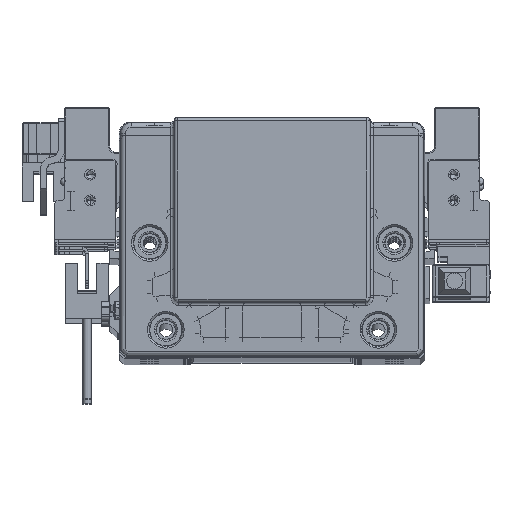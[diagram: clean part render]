
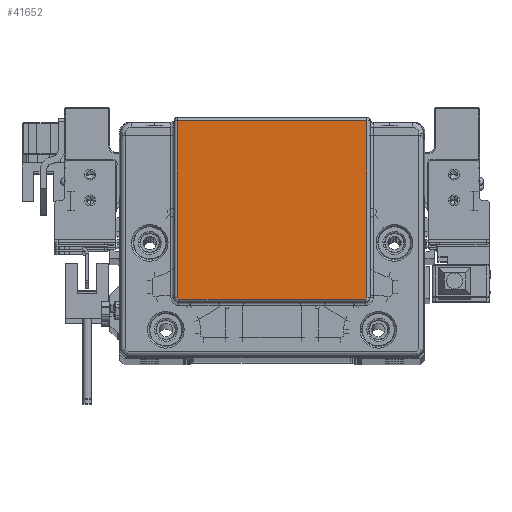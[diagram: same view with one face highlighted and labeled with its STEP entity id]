
A CAD part, top view. The second image highlights one B-rep face of the part: STEP entity #41652.
In plain terms, the highlighted planar face has unit normal (0, 0, 1) as drawn and (0, 0, -1) by its records, which use the part's own axes.
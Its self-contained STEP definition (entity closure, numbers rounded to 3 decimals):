
#1126 = ORIENTED_EDGE ( 'NONE', *, *, #15999, .F. ) ;
#1312 = CARTESIAN_POINT ( 'NONE',  ( 28.935, -19.232, -2. ) ) ;
#2169 = DIRECTION ( 'NONE',  ( 0., -1., 0. ) ) ;
#2860 = VERTEX_POINT ( 'NONE', #1312 ) ;
#3333 = CARTESIAN_POINT ( 'NONE',  ( 29.003, -19.232, -2. ) ) ;
#3408 = CARTESIAN_POINT ( 'NONE',  ( 0., 36.185, -2. ) ) ;
#3755 = CARTESIAN_POINT ( 'NONE',  ( 29.296, -19.079, -2. ) ) ;
#6335 = B_SPLINE_CURVE_WITH_KNOTS ( 'NONE', 3,
 ( #77428, #3333, #56542, #71186, #44562, #10424, #83663, #23315, #30393, #29529, #37878, #3755, #51640, #64929, #30815, #24637, #78737, #49898, #77011, #16207, #43239, #36571, #73816, #20156, #67135 ),
 .UNSPECIFIED., .F., .F.,
 ( 4, 2, 1, 1, 1, 1, 2, 2, 2, 2, 2, 1, 2, 2, 4 ),
 ( 0., 0.25, 0.375, 0.438, 0.469, 0.484, 0.492, 0.5, 0.625, 0.688, 0.719, 0.734, 0.742, 0.75, 1. ),
 .UNSPECIFIED. ) ;
#7844 = CARTESIAN_POINT ( 'NONE',  ( 29.435, 36.185, -2. ) ) ;
#8360 = CARTESIAN_POINT ( 'NONE',  ( 29.435, -18.732, -2. ) ) ;
#10383 = VERTEX_POINT ( 'NONE', #7844 ) ;
#10424 = CARTESIAN_POINT ( 'NONE',  ( 29.247, -19.124, -2. ) ) ;
#10881 = EDGE_CURVE ( 'NONE', #55246, #36105, #50247, .T. ) ;
#11459 = CARTESIAN_POINT ( 'NONE',  ( -28.988, -19.232, -2. ) ) ;
#15999 = EDGE_CURVE ( 'NONE', #55246, #20825, #78642, .T. ) ;
#16207 = CARTESIAN_POINT ( 'NONE',  ( 29.395, -18.93, -2. ) ) ;
#16587 = VECTOR ( 'NONE', #17589, 1000. ) ;
#17589 = DIRECTION ( 'NONE',  ( 1., 0., 0. ) ) ;
#17701 = CARTESIAN_POINT ( 'NONE',  ( -29.435, -18.732, -2. ) ) ;
#20156 = CARTESIAN_POINT ( 'NONE',  ( 29.435, -18.785, -2. ) ) ;
#20825 = VERTEX_POINT ( 'NONE', #29982 ) ;
#21277 = LINE ( 'NONE', #75408, #72332 ) ;
#21830 = CARTESIAN_POINT ( 'NONE',  ( 0., 0., -2. ) ) ;
#23315 = CARTESIAN_POINT ( 'NONE',  ( 29.279, -19.096, -2. ) ) ;
#23660 = DIRECTION ( 'NONE',  ( 0., 1., 0. ) ) ;
#24637 = CARTESIAN_POINT ( 'NONE',  ( 29.372, -18.977, -2. ) ) ;
#24810 = CARTESIAN_POINT ( 'NONE',  ( -29.133, -19.192, -2. ) ) ;
#25244 = CARTESIAN_POINT ( 'NONE',  ( -29.051, -19.224, -2. ) ) ;
#27637 = ORIENTED_EDGE ( 'NONE', *, *, #10881, .T. ) ;
#29244 = EDGE_CURVE ( 'NONE', #10383, #61579, #21277, .T. ) ;
#29529 = CARTESIAN_POINT ( 'NONE',  ( 29.286, -19.089, -2. ) ) ;
#29982 = CARTESIAN_POINT ( 'NONE',  ( -28.935, -19.232, -2. ) ) ;
#30393 = CARTESIAN_POINT ( 'NONE',  ( 29.283, -19.092, -2. ) ) ;
#30815 = CARTESIAN_POINT ( 'NONE',  ( 29.354, -19.006, -2. ) ) ;
#31004 = CARTESIAN_POINT ( 'NONE',  ( -29.421, -18.866, -2. ) ) ;
#31008 = ORIENTED_EDGE ( 'NONE', *, *, #29244, .T. ) ;
#31864 = CARTESIAN_POINT ( 'NONE',  ( -29.209, -19.151, -2. ) ) ;
#32293 = CARTESIAN_POINT ( 'NONE',  ( -29.169, -19.175, -2. ) ) ;
#33215 = AXIS2_PLACEMENT_3D ( 'NONE', #21830, #42199, #69258 ) ;
#34738 = CARTESIAN_POINT ( 'NONE',  ( -29.435, 36.185, -2. ) ) ;
#36105 = VERTEX_POINT ( 'NONE', #34738 ) ;
#36571 = CARTESIAN_POINT ( 'NONE',  ( 29.399, -18.919, -2. ) ) ;
#37521 = LINE ( 'NONE', #3408, #16587 ) ;
#37878 = CARTESIAN_POINT ( 'NONE',  ( 29.288, -19.086, -2. ) ) ;
#38622 = EDGE_CURVE ( 'NONE', #2860, #61579, #6335, .T. ) ;
#38940 = CARTESIAN_POINT ( 'NONE',  ( -29.299, -19.076, -2. ) ) ;
#39372 = CARTESIAN_POINT ( 'NONE',  ( -29.383, -18.956, -2. ) ) ;
#40079 = ORIENTED_EDGE ( 'NONE', *, *, #53055, .T. ) ;
#40119 = PLANE ( 'NONE',  #33215 ) ;
#40154 = EDGE_LOOP ( 'NONE', ( #27637, #40079, #31008, #71839, #60766, #1126 ) ) ;
#40795 = LINE ( 'NONE', #80767, #78624 ) ;
#41652 = ADVANCED_FACE ( 'NONE', ( #60064 ), #40119, .T. ) ;
#42199 = DIRECTION ( 'NONE',  ( 0., 0., -1. ) ) ;
#43239 = CARTESIAN_POINT ( 'NONE',  ( 29.397, -18.923, -2. ) ) ;
#44305 = CARTESIAN_POINT ( 'NONE',  ( -29.435, -18.801, -2. ) ) ;
#44562 = CARTESIAN_POINT ( 'NONE',  ( 29.201, -19.157, -2. ) ) ;
#44739 = CARTESIAN_POINT ( 'NONE',  ( -29.435, -18.732, -2. ) ) ;
#46061 = CARTESIAN_POINT ( 'NONE',  ( -29.36, -18.998, -2. ) ) ;
#49723 = VECTOR ( 'NONE', #23660, 1000. ) ;
#49898 = CARTESIAN_POINT ( 'NONE',  ( 29.386, -18.948, -2. ) ) ;
#50247 = LINE ( 'NONE', #57329, #49723 ) ;
#51382 = CARTESIAN_POINT ( 'NONE',  ( -29.18, -19.169, -2. ) ) ;
#51640 = CARTESIAN_POINT ( 'NONE',  ( 29.312, -19.063, -2. ) ) ;
#51812 = CARTESIAN_POINT ( 'NONE',  ( -29.266, -19.109, -2. ) ) ;
#52262 = CARTESIAN_POINT ( 'NONE',  ( -29.292, -19.083, -2. ) ) ;
#53055 = EDGE_CURVE ( 'NONE', #36105, #10383, #37521, .T. ) ;
#55246 = VERTEX_POINT ( 'NONE', #17701 ) ;
#56542 = CARTESIAN_POINT ( 'NONE',  ( 29.069, -19.218, -2. ) ) ;
#57329 = CARTESIAN_POINT ( 'NONE',  ( -29.435, 0., -2. ) ) ;
#58028 = CARTESIAN_POINT ( 'NONE',  ( -29.226, -19.14, -2. ) ) ;
#59787 = CARTESIAN_POINT ( 'NONE',  ( -29.289, -19.086, -2. ) ) ;
#60064 = FACE_OUTER_BOUND ( 'NONE', #40154, .T. ) ;
#60766 = ORIENTED_EDGE ( 'NONE', *, *, #86343, .T. ) ;
#61579 = VERTEX_POINT ( 'NONE', #8360 ) ;
#64929 = CARTESIAN_POINT ( 'NONE',  ( 29.343, -19.023, -2. ) ) ;
#65118 = CARTESIAN_POINT ( 'NONE',  ( -29.326, -19.044, -2. ) ) ;
#65992 = CARTESIAN_POINT ( 'NONE',  ( -29.308, -19.065, -2. ) ) ;
#66428 = CARTESIAN_POINT ( 'NONE',  ( -28.935, -19.232, -2. ) ) ;
#66969 = DIRECTION ( 'NONE',  ( -1., 0., 0. ) ) ;
#67135 = CARTESIAN_POINT ( 'NONE',  ( 29.435, -18.732, -2. ) ) ;
#69258 = DIRECTION ( 'NONE',  ( -1., 0., 0. ) ) ;
#71186 = CARTESIAN_POINT ( 'NONE',  ( 29.158, -19.18, -2. ) ) ;
#71366 = CARTESIAN_POINT ( 'NONE',  ( -29.126, -19.195, -2. ) ) ;
#71799 = CARTESIAN_POINT ( 'NONE',  ( -29.282, -19.093, -2. ) ) ;
#71839 = ORIENTED_EDGE ( 'NONE', *, *, #38622, .F. ) ;
#72332 = VECTOR ( 'NONE', #2169, 1000. ) ;
#73117 = CARTESIAN_POINT ( 'NONE',  ( -29.121, -19.196, -2. ) ) ;
#73816 = CARTESIAN_POINT ( 'NONE',  ( 29.427, -18.849, -2. ) ) ;
#75408 = CARTESIAN_POINT ( 'NONE',  ( 29.435, 0., -2. ) ) ;
#77011 = CARTESIAN_POINT ( 'NONE',  ( 29.391, -18.939, -2. ) ) ;
#77428 = CARTESIAN_POINT ( 'NONE',  ( 28.935, -19.232, -2. ) ) ;
#78489 = CARTESIAN_POINT ( 'NONE',  ( -29.142, -19.188, -2. ) ) ;
#78624 = VECTOR ( 'NONE', #66969, 1000. ) ;
#78642 = B_SPLINE_CURVE_WITH_KNOTS ( 'NONE', 3,
 ( #44739, #44305, #31004, #39372, #46061, #65118, #65992, #38940, #78923, #52262, #59787, #71799, #51812, #58028, #31864, #51382, #32293, #86022, #78489, #24810, #71366, #73117, #25244, #11459, #66428 ),
 .UNSPECIFIED., .F., .F.,
 ( 4, 2, 1, 1, 1, 1, 2, 2, 2, 2, 2, 1, 2, 2, 4 ),
 ( 0., 0.25, 0.375, 0.437, 0.469, 0.484, 0.492, 0.5, 0.625, 0.687, 0.719, 0.734, 0.742, 0.75, 1. ),
 .UNSPECIFIED. ) ;
#78737 = CARTESIAN_POINT ( 'NONE',  ( 29.378, -18.966, -2. ) ) ;
#78923 = CARTESIAN_POINT ( 'NONE',  ( -29.294, -19.08, -2. ) ) ;
#80767 = CARTESIAN_POINT ( 'NONE',  ( 0., -19.232, -2. ) ) ;
#83663 = CARTESIAN_POINT ( 'NONE',  ( 29.268, -19.105, -2. ) ) ;
#86022 = CARTESIAN_POINT ( 'NONE',  ( -29.151, -19.183, -2. ) ) ;
#86343 = EDGE_CURVE ( 'NONE', #2860, #20825, #40795, .T. ) ;
